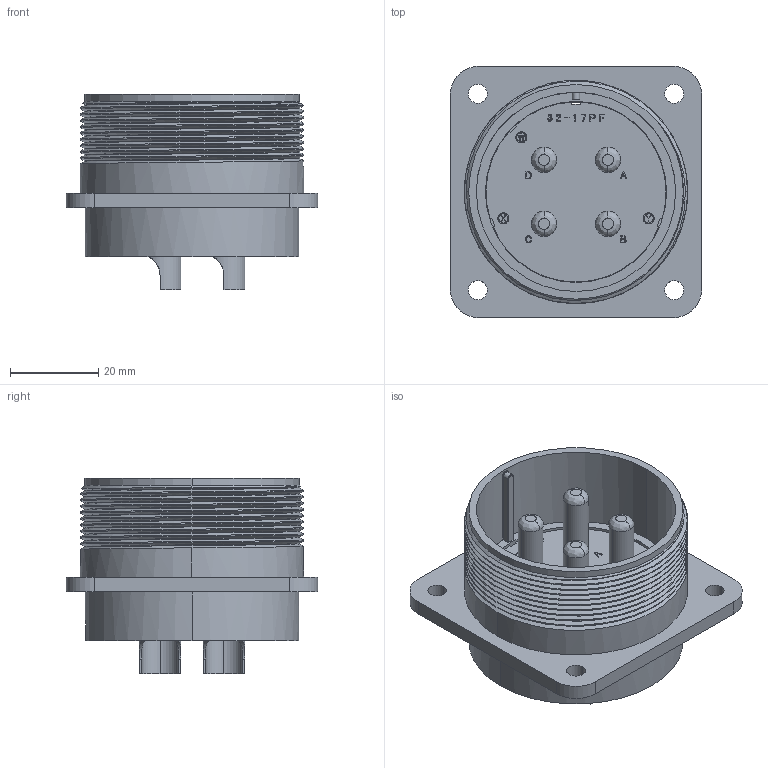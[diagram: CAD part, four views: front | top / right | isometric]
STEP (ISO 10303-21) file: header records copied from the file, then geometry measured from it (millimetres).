
FILE_DESCRIPTION (( 'STEP AP203' ), '1' );
FILE_NAME ('DMS3102A32-17P.STEP', '2017-03-06T01:33:07', ( '' ), ( '' ), 'SwSTEP 2.0', 'SolidWorks 2015', '' );
FILE_SCHEMA (( 'CONFIG_CONTROL_DESIGN' ));
Length unit declared in the file: millimetre
Products named in the file (1): DMS3102A32-17P
Bounding box: 56.9 x 56.9 x 44.27 mm (x, y, z)
Volume: 39968.5 mm3; surface area: 25288.7 mm2
Topology: 1 solids, 1 shells, 598 faces, 1634 edges, 1077 vertices
Faces by surface type: plane 282, cylinder 158, bspline 155, cone 3
Entity records: 25062 total; most frequent: CARTESIAN_POINT 10965, ORIENTED_EDGE 3264, DIRECTION 2368, EDGE_CURVE 1632, VERTEX_POINT 1077, LINE 944, VECTOR 944, AXIS2_PLACEMENT_3D 712
